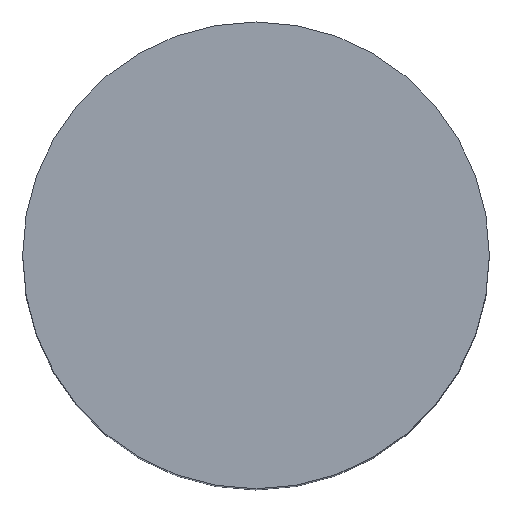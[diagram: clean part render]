
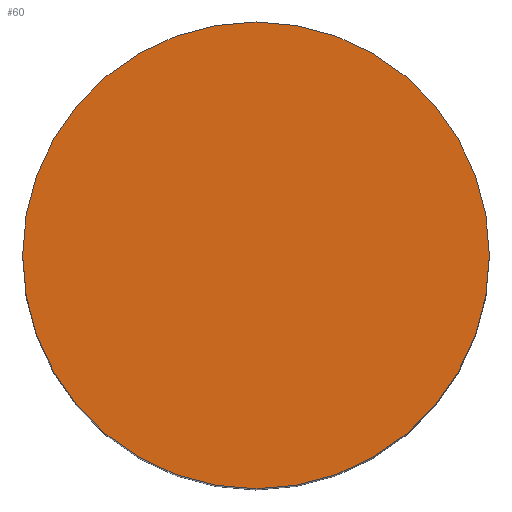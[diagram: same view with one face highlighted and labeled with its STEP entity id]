
A CAD part, top view. The second image highlights one B-rep face of the part: STEP entity #60.
In plain terms, the highlighted planar face has unit normal (0, 0, 1).
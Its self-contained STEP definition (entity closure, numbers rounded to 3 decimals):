
#12=CARTESIAN_POINT('',(400.,0.,1200.));
#13=VERTEX_POINT('',#12);
#20=CARTESIAN_POINT('',(0.,0.,1200.));
#21=DIRECTION('',(0.,0.,1.));
#22=DIRECTION('',(1.,0.,0.));
#23=AXIS2_PLACEMENT_3D('',#20,#21,#22);
#24=CIRCLE('',#23,400.);
#25=EDGE_CURVE('',#13,#13,#24,.T.);
#52=CARTESIAN_POINT('',(0.,0.,1200.));
#53=DIRECTION('',(0.,0.,1.));
#54=DIRECTION('',(1.,0.,0.));
#55=AXIS2_PLACEMENT_3D('',#52,#53,#54);
#56=PLANE('',#55);
#57=ORIENTED_EDGE('',*,*,#25,.T.);
#58=EDGE_LOOP('',(#57));
#59=FACE_OUTER_BOUND('',#58,.T.);
#60=ADVANCED_FACE('top',(#59),#56,.T.);
